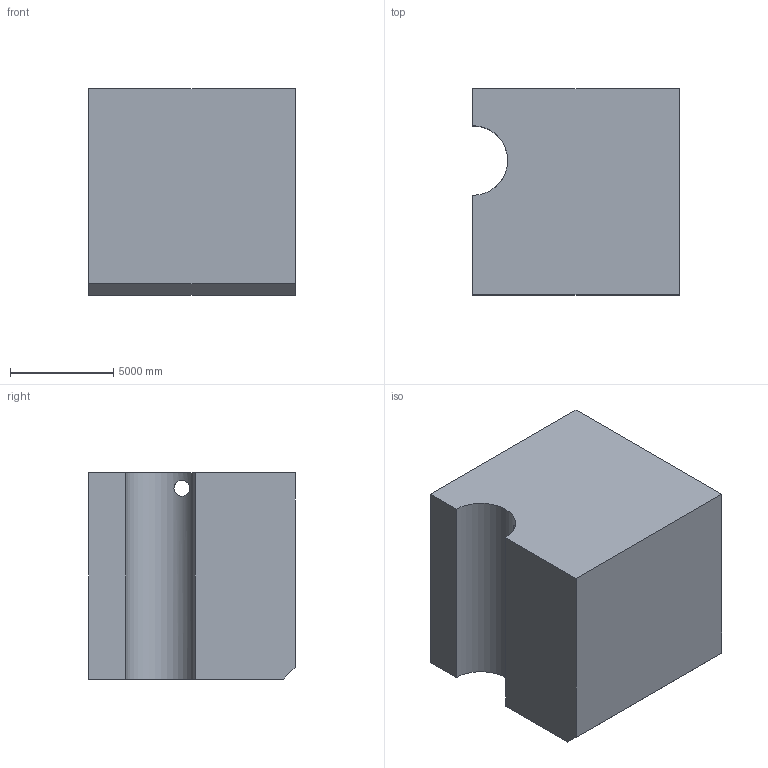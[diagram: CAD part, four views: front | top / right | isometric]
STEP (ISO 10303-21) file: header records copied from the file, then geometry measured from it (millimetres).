
FILE_DESCRIPTION (( 'STEP AP203' ), '1' );
FILE_NAME ('128.STEP', '2022-09-05T15:38:17', ( 'user' ), ( '' ), 'SwSTEP 2.0', 'SolidWorks 2021', '' );
FILE_SCHEMA (( 'CONFIG_CONTROL_DESIGN' ));
Length unit declared in the file: centimetre
Products named in the file (1): 128
Bounding box: 10000 x 10000 x 10000 mm (x, y, z)
Volume: 949634088942.9 mm3; surface area: 626735556.3 mm2
Topology: 1 solids, 1 shells, 11 faces, 27 edges, 18 vertices
Faces by surface type: plane 8, cylinder 3
Entity records: 637 total; most frequent: CARTESIAN_POINT 292, ORIENTED_EDGE 54, DIRECTION 53, EDGE_CURVE 27, VECTOR 21, LINE 21, VERTEX_POINT 18, AXIS2_PLACEMENT_3D 16
